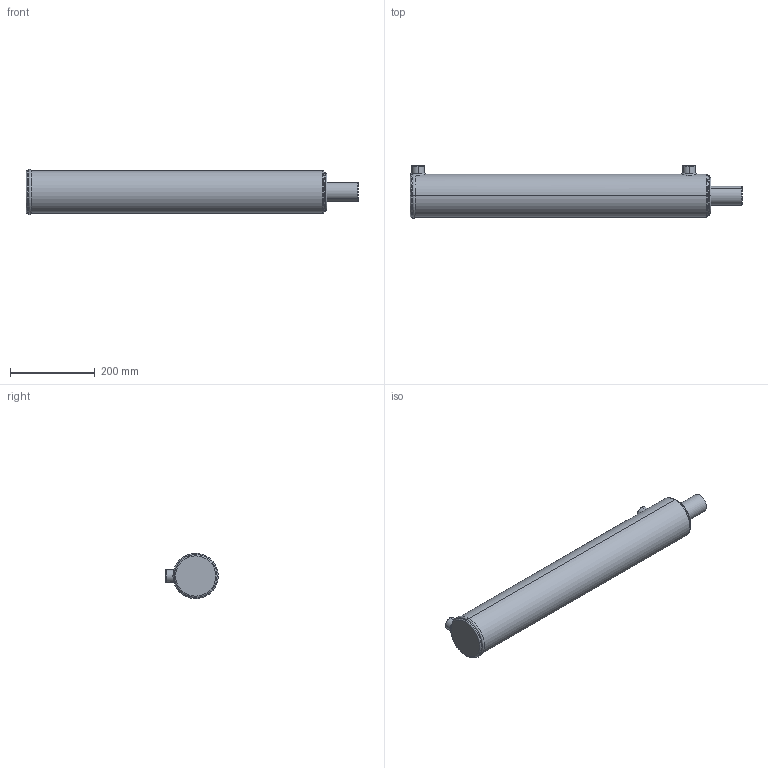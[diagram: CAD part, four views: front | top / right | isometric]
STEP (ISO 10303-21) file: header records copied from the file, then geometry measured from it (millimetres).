
FILE_DESCRIPTION (( 'STEP AP203' ), '1' );
FILE_NAME ('BL350175x610 (24).STEP', '2014-11-24T03:27:41', ( '' ), ( '' ), 'SwSTEP 2.0', 'SolidWorks 2014', '' );
FILE_SCHEMA (( 'CONFIG_CONTROL_DESIGN' ));
Length unit declared in the file: millimetre
Products named in the file (3): Spare_3.5x24; BL350175x610 (24); BL body 3.5_3.5x24
Assembly tree (2 placements, depth 2):
  BL350175x610 (24)
    BL body 3.5_3.5x24
    Spare_3.5x24
Bounding box: 785 x 124.4 x 107.2 mm (x, y, z)
Volume: 6547785.6 mm3; surface area: 397651 mm2
Topology: 2 solids, 2 shells, 88 faces, 205 edges, 126 vertices
Faces by surface type: cylinder 32, plane 20, torus 17, bspline 11, cone 8
Entity records: 6022 total; most frequent: CARTESIAN_POINT 3775, DIRECTION 420, ORIENTED_EDGE 402, EDGE_CURVE 201, AXIS2_PLACEMENT_3D 181, VERTEX_POINT 126, EDGE_LOOP 101, CIRCLE 99
